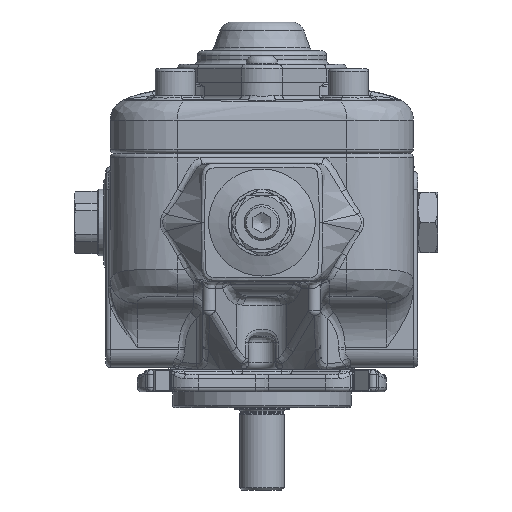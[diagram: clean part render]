
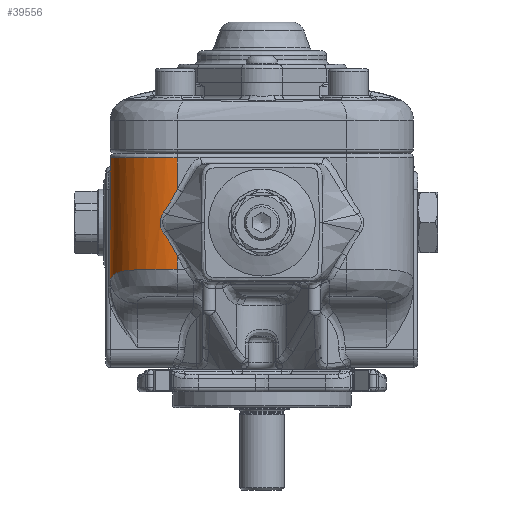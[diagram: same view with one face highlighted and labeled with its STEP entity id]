
A CAD part, front view. The second image highlights one B-rep face of the part: STEP entity #39556.
In plain terms, the highlighted cylindrical face has radius 30 mm (diameter 60 mm), a partial arc.
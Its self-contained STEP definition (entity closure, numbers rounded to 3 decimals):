
#2820=CIRCLE('',#43197,30.);
#3764=CYLINDRICAL_SURFACE('',#43196,30.);
#5952=FACE_OUTER_BOUND('',#8332,.T.);
#8332=EDGE_LOOP('',(#31660,#31661,#31662,#31663,#31664,#31665,#31666,#31667));
#9771=B_SPLINE_CURVE_WITH_KNOTS('',3,(#77962,#77963,#77964,#77965,#77966),
 .UNSPECIFIED.,.F.,.F.,(4,1,4),(-1.207,-0.517,0.),
 .UNSPECIFIED.);
#9776=B_SPLINE_CURVE_WITH_KNOTS('',3,(#78043,#78044,#78045,#78046,#78047,
#78048,#78049),.UNSPECIFIED.,.F.,.F.,(4,1,1,1,4),(-1.056,-0.754,
-0.604,-0.302,0.),.UNSPECIFIED.);
#9778=B_SPLINE_CURVE_WITH_KNOTS('',3,(#78108,#78109,#78110,#78111,#78112),
 .UNSPECIFIED.,.F.,.F.,(4,1,4),(-1.207,-0.69,0.),
 .UNSPECIFIED.);
#9801=B_SPLINE_CURVE_WITH_KNOTS('',3,(#79161,#79162,#79163,#79164,#79165,
#79166,#79167,#79168,#79169,#79170,#79171,#79172,#79173),.UNSPECIFIED.,
 .F.,.F.,(4,1,1,1,1,1,1,1,1,1,4),(-2.896,-2.585,-2.482,
-2.275,-2.068,-1.862,-1.551,
-1.241,-0.827,-0.414,0.),
 .UNSPECIFIED.);
#11490=LINE('',#79154,#13590);
#11491=LINE('',#79157,#13591);
#11492=LINE('',#79160,#13592);
#13590=VECTOR('',#51913,10.);
#13591=VECTOR('',#51916,10.);
#13592=VECTOR('',#51919,10.);
#16645=VERTEX_POINT('',#73733);
#16774=VERTEX_POINT('',#77282);
#16780=VERTEX_POINT('',#77961);
#16783=VERTEX_POINT('',#78034);
#16785=VERTEX_POINT('',#78107);
#16812=VERTEX_POINT('',#79148);
#16814=VERTEX_POINT('',#79156);
#16815=VERTEX_POINT('',#79159);
#21868=EDGE_CURVE('',#16774,#16780,#9771,.T.);
#21876=EDGE_CURVE('',#16780,#16783,#9776,.T.);
#21879=EDGE_CURVE('',#16783,#16785,#9778,.T.);
#21934=EDGE_CURVE('',#16812,#16785,#11490,.T.);
#21935=EDGE_CURVE('',#16774,#16814,#11491,.T.);
#21936=EDGE_CURVE('',#16645,#16814,#2820,.T.);
#21937=EDGE_CURVE('',#16815,#16645,#11492,.T.);
#21938=EDGE_CURVE('',#16812,#16815,#9801,.T.);
#31660=ORIENTED_EDGE('',*,*,#21879,.F.);
#31661=ORIENTED_EDGE('',*,*,#21876,.F.);
#31662=ORIENTED_EDGE('',*,*,#21868,.F.);
#31663=ORIENTED_EDGE('',*,*,#21935,.T.);
#31664=ORIENTED_EDGE('',*,*,#21936,.F.);
#31665=ORIENTED_EDGE('',*,*,#21937,.F.);
#31666=ORIENTED_EDGE('',*,*,#21938,.F.);
#31667=ORIENTED_EDGE('',*,*,#21934,.T.);
#39556=ADVANCED_FACE('',(#5952),#3764,.T.);
#43196=AXIS2_PLACEMENT_3D('',#79155,#51914,#51915);
#43197=AXIS2_PLACEMENT_3D('',#79158,#51917,#51918);
#51913=DIRECTION('',(0.,0.,1.));
#51914=DIRECTION('center_axis',(0.,0.,1.));
#51915=DIRECTION('ref_axis',(-1.,0.,0.));
#51916=DIRECTION('',(0.,0.,1.));
#51917=DIRECTION('center_axis',(0.,0.,
1.));
#51918=DIRECTION('ref_axis',(-0.707,-0.707,0.));
#51919=DIRECTION('',(0.,0.,1.));
#73733=CARTESIAN_POINT('',(-74.54,-40.004,48.252));
#77282=CARTESIAN_POINT('',(-44.54,-70.004,34.144));
#77961=CARTESIAN_POINT('',(-50.505,-69.405,24.053));
#77962=CARTESIAN_POINT('Ctrl Pts',(-44.54,-70.004,
34.144));
#77963=CARTESIAN_POINT('Ctrl Pts',(-45.562,-70.004,32.139));
#77964=CARTESIAN_POINT('Ctrl Pts',(-47.421,-69.916,
28.667));
#77965=CARTESIAN_POINT('Ctrl Pts',(-49.529,-69.603,
25.385));
#77966=CARTESIAN_POINT('Ctrl Pts',(-50.505,-69.405,24.053));
#78034=CARTESIAN_POINT('',(-50.505,-69.405,14.452));
#78043=CARTESIAN_POINT('Ctrl Pts',(-50.505,-69.405,
24.053));
#78044=CARTESIAN_POINT('Ctrl Pts',(-51.074,-69.29,
23.276));
#78045=CARTESIAN_POINT('Ctrl Pts',(-51.816,-69.112,21.989));
#78046=CARTESIAN_POINT('Ctrl Pts',(-52.415,-68.951,
19.522));
#78047=CARTESIAN_POINT('Ctrl Pts',(-52.081,-69.045,16.941));
#78048=CARTESIAN_POINT('Ctrl Pts',(-51.074,-69.29,
15.229));
#78049=CARTESIAN_POINT('Ctrl Pts',(-50.505,-69.405,
14.452));
#78107=CARTESIAN_POINT('',(-44.54,-70.004,4.36));
#78108=CARTESIAN_POINT('Ctrl Pts',(-50.505,-69.405,
14.452));
#78109=CARTESIAN_POINT('Ctrl Pts',(-49.529,-69.603,
13.12));
#78110=CARTESIAN_POINT('Ctrl Pts',(-47.421,-69.916,
9.837));
#78111=CARTESIAN_POINT('Ctrl Pts',(-45.562,-70.004,6.366));
#78112=CARTESIAN_POINT('Ctrl Pts',(-44.54,-70.004,4.36));
#79148=CARTESIAN_POINT('',(-44.54,-70.004,-1.748));
#79154=CARTESIAN_POINT('',(-44.54,-70.004,-14.748));
#79155=CARTESIAN_POINT('Origin',(-44.54,-40.004,-14.748));
#79156=CARTESIAN_POINT('',(-44.54,-70.004,48.252));
#79157=CARTESIAN_POINT('',(-44.54,-70.004,-14.748));
#79158=CARTESIAN_POINT('Origin',(-44.54,-40.004,48.252));
#79159=CARTESIAN_POINT('',(-74.54,-40.004,-6.731));
#79160=CARTESIAN_POINT('',(-74.54,-40.004,-14.748));
#79161=CARTESIAN_POINT('Ctrl Pts',(-44.54,-70.004,
-1.748));
#79162=CARTESIAN_POINT('Ctrl Pts',(-46.277,-70.004,
-1.748));
#79163=CARTESIAN_POINT('Ctrl Pts',(-48.572,-69.805,
-1.747));
#79164=CARTESIAN_POINT('Ctrl Pts',(-51.974,-69.109,
-1.751));
#79165=CARTESIAN_POINT('Ctrl Pts',(-54.763,-68.28,
-1.76));
#79166=CARTESIAN_POINT('Ctrl Pts',(-57.955,-66.911,-1.793));
#79167=CARTESIAN_POINT('Ctrl Pts',(-61.453,-64.912,-1.871));
#79168=CARTESIAN_POINT('Ctrl Pts',(-65.124,-62.033,
-2.054));
#79169=CARTESIAN_POINT('Ctrl Pts',(-68.959,-57.779,-2.482));
#79170=CARTESIAN_POINT('Ctrl Pts',(-72.153,-52.356,
-3.313));
#79171=CARTESIAN_POINT('Ctrl Pts',(-74.139,-46.123,
-4.726));
#79172=CARTESIAN_POINT('Ctrl Pts',(-74.54,-41.975,-6.022));
#79173=CARTESIAN_POINT('Ctrl Pts',(-74.54,-40.004,-6.731));
